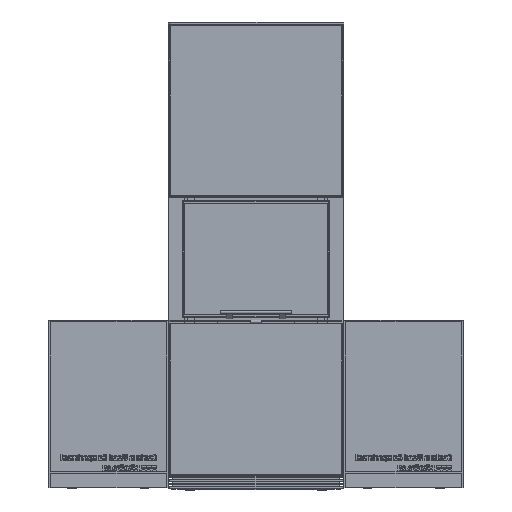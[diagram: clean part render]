
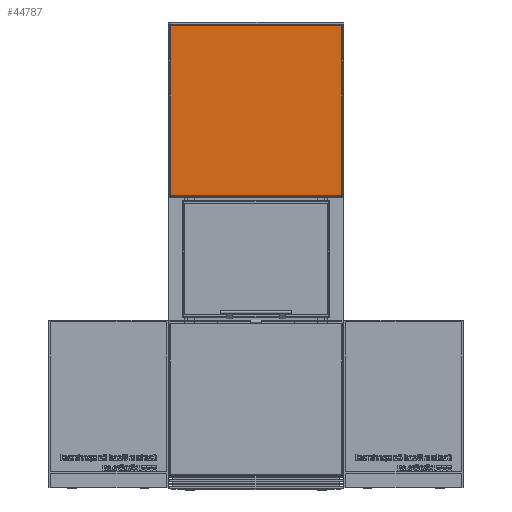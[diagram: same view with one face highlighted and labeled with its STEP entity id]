
A CAD part, front view. The second image highlights one B-rep face of the part: STEP entity #44787.
In plain terms, the highlighted planar face has unit normal (0, -1, 0).
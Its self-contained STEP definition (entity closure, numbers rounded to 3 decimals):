
#4809=LINE('',#75069,#7568);
#4810=LINE('',#75072,#7569);
#4811=LINE('',#75074,#7570);
#4812=LINE('',#75076,#7571);
#7568=VECTOR('',#53110,1000.);
#7569=VECTOR('',#53111,1000.);
#7570=VECTOR('',#53112,1000.);
#7571=VECTOR('',#53113,1000.);
#15596=ORIENTED_EDGE('',*,*,#22388,.F.);
#15597=ORIENTED_EDGE('',*,*,#22389,.F.);
#15598=ORIENTED_EDGE('',*,*,#22390,.T.);
#15599=ORIENTED_EDGE('',*,*,#22391,.T.);
#22388=EDGE_CURVE('',#26382,#26383,#4809,.T.);
#22389=EDGE_CURVE('',#26384,#26382,#4810,.T.);
#22390=EDGE_CURVE('',#26384,#26385,#4811,.T.);
#22391=EDGE_CURVE('',#26385,#26383,#4812,.T.);
#26382=VERTEX_POINT('',#75070);
#26383=VERTEX_POINT('',#75071);
#26384=VERTEX_POINT('',#75073);
#26385=VERTEX_POINT('',#75075);
#29386=EDGE_LOOP('',(#15596,#15597,#15598,#15599));
#31688=FACE_BOUND('',#29386,.T.);
#33437=PLANE('',#47172);
#44787=ADVANCED_FACE('',(#31688),#33437,.F.);
#47172=AXIS2_PLACEMENT_3D('',#75068,#53108,#53109);
#53108=DIRECTION('',(0.,1.,0.));
#53109=DIRECTION('',(0.,0.,1.));
#53110=DIRECTION('',(0.,0.,1.));
#53111=DIRECTION('',(-1.,0.,0.));
#53112=DIRECTION('',(0.,0.,1.));
#53113=DIRECTION('',(-1.,0.,0.));
#75068=CARTESIAN_POINT('',(-295.,-500.,1560.));
#75069=CARTESIAN_POINT('',(-287.,-500.,-136.526));
#75070=CARTESIAN_POINT('',(-287.,-500.,989.));
#75071=CARTESIAN_POINT('',(-287.,-500.,1557.));
#75072=CARTESIAN_POINT('',(1401.526,-500.,989.));
#75073=CARTESIAN_POINT('',(287.,-500.,989.));
#75074=CARTESIAN_POINT('',(287.,-500.,-136.526));
#75075=CARTESIAN_POINT('',(287.,-500.,1557.));
#75076=CARTESIAN_POINT('',(1401.526,-500.,1557.));
